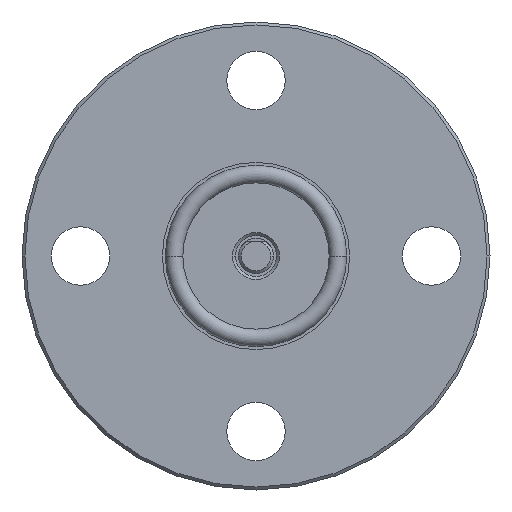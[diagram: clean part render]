
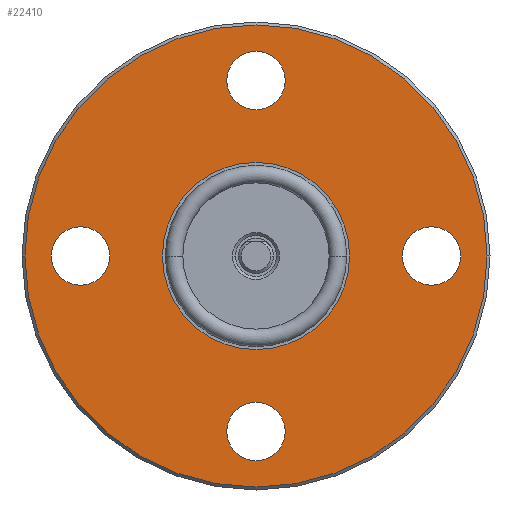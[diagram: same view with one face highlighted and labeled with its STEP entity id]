
A CAD part, left-side view. The second image highlights one B-rep face of the part: STEP entity #22410.
In plain terms, the highlighted planar face has unit normal (-1, 0, 0).
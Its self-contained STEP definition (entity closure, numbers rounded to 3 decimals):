
#40 = VERTEX_POINT ( 'NONE', #27620 ) ;
#51 = EDGE_CURVE ( 'NONE', #62, #40, #27654, .T. ) ;
#55 = EDGE_CURVE ( 'NONE', #68, #60, #27649, .T. ) ;
#56 = EDGE_CURVE ( 'NONE', #22091, #22093, #27644, .T. ) ;
#60 = VERTEX_POINT ( 'NONE', #27638 ) ;
#62 = VERTEX_POINT ( 'NONE', #27696 ) ;
#68 = VERTEX_POINT ( 'NONE', #27693 ) ;
#21699 = EDGE_CURVE ( 'NONE', #21701, #21854, #27780, .T. ) ;
#21701 = VERTEX_POINT ( 'NONE', #27775 ) ;
#21854 = VERTEX_POINT ( 'NONE', #27968 ) ;
#22068 = EDGE_CURVE ( 'NONE', #22073, #22081, #28342, .T. ) ;
#22073 = VERTEX_POINT ( 'NONE', #28333 ) ;
#22074 = EDGE_CURVE ( 'NONE', #22085, #22076, #28332, .T. ) ;
#22076 = VERTEX_POINT ( 'NONE', #28327 ) ;
#22081 = VERTEX_POINT ( 'NONE', #28326 ) ;
#22085 = VERTEX_POINT ( 'NONE', #28324 ) ;
#22091 = VERTEX_POINT ( 'NONE', #28379 ) ;
#22093 = VERTEX_POINT ( 'NONE', #28378 ) ;
#22277 = EDGE_LOOP ( 'NONE', ( #22278, #22281 ) ) ;
#22278 = ORIENTED_EDGE ( 'NONE', *, *, #22279, .F. ) ;
#22279 = EDGE_CURVE ( 'NONE', #60, #68, #29019, .T. ) ;
#22281 = ORIENTED_EDGE ( 'NONE', *, *, #55, .F. ) ;
#22284 = EDGE_LOOP ( 'NONE', ( #22285, #22288 ) ) ;
#22285 = ORIENTED_EDGE ( 'NONE', *, *, #22286, .F. ) ;
#22286 = EDGE_CURVE ( 'NONE', #40, #62, #29058, .T. ) ;
#22288 = ORIENTED_EDGE ( 'NONE', *, *, #51, .F. ) ;
#22289 = EDGE_LOOP ( 'NONE', ( #22381, #22386 ) ) ;
#22381 = ORIENTED_EDGE ( 'NONE', *, *, #22383, .F. ) ;
#22383 = EDGE_CURVE ( 'NONE', #22093, #22091, #29240, .T. ) ;
#22386 = ORIENTED_EDGE ( 'NONE', *, *, #56, .F. ) ;
#22388 = EDGE_LOOP ( 'NONE', ( #22390, #22394 ) ) ;
#22390 = ORIENTED_EDGE ( 'NONE', *, *, #22392, .F. ) ;
#22392 = EDGE_CURVE ( 'NONE', #22081, #22073, #29235, .T. ) ;
#22394 = ORIENTED_EDGE ( 'NONE', *, *, #22068, .F. ) ;
#22397 = EDGE_LOOP ( 'NONE', ( #22399, #22404 ) ) ;
#22399 = ORIENTED_EDGE ( 'NONE', *, *, #22401, .F. ) ;
#22401 = EDGE_CURVE ( 'NONE', #22076, #22085, #29230, .T. ) ;
#22404 = ORIENTED_EDGE ( 'NONE', *, *, #22074, .F. ) ;
#22410 = ADVANCED_FACE ( 'NONE', ( #29218, #29217, #29276, #29275, #29274, #29273 ), #29223, .T. ) ;
#22413 = EDGE_LOOP ( 'NONE', ( #22415, #22419 ) ) ;
#22415 = ORIENTED_EDGE ( 'NONE', *, *, #22417, .T. ) ;
#22417 = EDGE_CURVE ( 'NONE', #21854, #21701, #29268, .T. ) ;
#22419 = ORIENTED_EDGE ( 'NONE', *, *, #21699, .T. ) ;
#27620 = CARTESIAN_POINT ( 'NONE',  ( 20., -5., 30. ) ) ;
#27638 = CARTESIAN_POINT ( 'NONE',  ( 20., -16., 0. ) ) ;
#27640 = DIRECTION ( 'NONE',  ( 0., 1., 0. ) ) ;
#27641 = DIRECTION ( 'NONE',  ( -1., 0., 0. ) ) ;
#27642 = CARTESIAN_POINT ( 'NONE',  ( 20., -30., 0. ) ) ;
#27643 = AXIS2_PLACEMENT_3D ( 'NONE', #27642, #27641, #27640 ) ;
#27644 = CIRCLE ( 'NONE', #27643, 5. ) ;
#27645 = DIRECTION ( 'NONE',  ( 0., -1., 0. ) ) ;
#27646 = DIRECTION ( 'NONE',  ( -1., 0., 0. ) ) ;
#27647 = CARTESIAN_POINT ( 'NONE',  ( 20., 0., 0. ) ) ;
#27648 = AXIS2_PLACEMENT_3D ( 'NONE', #27647, #27646, #27645 ) ;
#27649 = CIRCLE ( 'NONE', #27648, 16. ) ;
#27650 = DIRECTION ( 'NONE',  ( 0., 0., -1. ) ) ;
#27651 = DIRECTION ( 'NONE',  ( -1., 0., 0. ) ) ;
#27652 = CARTESIAN_POINT ( 'NONE',  ( 20., 0., 30. ) ) ;
#27653 = AXIS2_PLACEMENT_3D ( 'NONE', #27652, #27651, #27650 ) ;
#27654 = CIRCLE ( 'NONE', #27653, 5. ) ;
#27693 = CARTESIAN_POINT ( 'NONE',  ( 20., 16., 0. ) ) ;
#27696 = CARTESIAN_POINT ( 'NONE',  ( 20., 5., 30. ) ) ;
#27775 = CARTESIAN_POINT ( 'NONE',  ( 20., -39.5, 0. ) ) ;
#27776 = DIRECTION ( 'NONE',  ( 0., -1., 0. ) ) ;
#27777 = DIRECTION ( 'NONE',  ( -1., 0., 0. ) ) ;
#27778 = CARTESIAN_POINT ( 'NONE',  ( 20., 0., 0. ) ) ;
#27779 = AXIS2_PLACEMENT_3D ( 'NONE', #27778, #27777, #27776 ) ;
#27780 = CIRCLE ( 'NONE', #27779, 39.5 ) ;
#27968 = CARTESIAN_POINT ( 'NONE',  ( 20., 39.5, 0. ) ) ;
#28324 = CARTESIAN_POINT ( 'NONE',  ( 20., 35., 0. ) ) ;
#28326 = CARTESIAN_POINT ( 'NONE',  ( 20., -5., -30. ) ) ;
#28327 = CARTESIAN_POINT ( 'NONE',  ( 20., 25., 0. ) ) ;
#28328 = DIRECTION ( 'NONE',  ( 0., -1., 0. ) ) ;
#28329 = DIRECTION ( 'NONE',  ( -1., 0., 0. ) ) ;
#28330 = CARTESIAN_POINT ( 'NONE',  ( 20., 30., 0. ) ) ;
#28331 = AXIS2_PLACEMENT_3D ( 'NONE', #28330, #28329, #28328 ) ;
#28332 = CIRCLE ( 'NONE', #28331, 5. ) ;
#28333 = CARTESIAN_POINT ( 'NONE',  ( 20., 5., -30. ) ) ;
#28338 = DIRECTION ( 'NONE',  ( 0., 0., 1. ) ) ;
#28339 = DIRECTION ( 'NONE',  ( -1., 0., 0. ) ) ;
#28340 = CARTESIAN_POINT ( 'NONE',  ( 20., 0., -30. ) ) ;
#28341 = AXIS2_PLACEMENT_3D ( 'NONE', #28340, #28339, #28338 ) ;
#28342 = CIRCLE ( 'NONE', #28341, 5. ) ;
#28378 = CARTESIAN_POINT ( 'NONE',  ( 20., -35., 0. ) ) ;
#28379 = CARTESIAN_POINT ( 'NONE',  ( 20., -25., 0. ) ) ;
#29019 = CIRCLE ( 'NONE', #29063, 16. ) ;
#29055 = DIRECTION ( 'NONE',  ( 0., 0., -1. ) ) ;
#29056 = DIRECTION ( 'NONE',  ( -1., 0., 0. ) ) ;
#29057 = AXIS2_PLACEMENT_3D ( 'NONE', #29064, #29056, #29055 ) ;
#29058 = CIRCLE ( 'NONE', #29057, 5. ) ;
#29060 = DIRECTION ( 'NONE',  ( 0., -1., 0. ) ) ;
#29061 = DIRECTION ( 'NONE',  ( -1., 0., 0. ) ) ;
#29062 = CARTESIAN_POINT ( 'NONE',  ( 20., 0., 0. ) ) ;
#29063 = AXIS2_PLACEMENT_3D ( 'NONE', #29062, #29061, #29060 ) ;
#29064 = CARTESIAN_POINT ( 'NONE',  ( 20., 0., 30. ) ) ;
#29217 = FACE_BOUND ( 'NONE', #22277, .T. ) ;
#29218 = FACE_OUTER_BOUND ( 'NONE', #22413, .T. ) ;
#29223 = PLANE ( 'NONE',  #29272 ) ;
#29226 = DIRECTION ( 'NONE',  ( 0., -1., 0. ) ) ;
#29227 = DIRECTION ( 'NONE',  ( -1., 0., 0. ) ) ;
#29228 = CARTESIAN_POINT ( 'NONE',  ( 20., 30., 0. ) ) ;
#29229 = AXIS2_PLACEMENT_3D ( 'NONE', #29228, #29227, #29226 ) ;
#29230 = CIRCLE ( 'NONE', #29229, 5. ) ;
#29231 = DIRECTION ( 'NONE',  ( 0., 0., 1. ) ) ;
#29232 = DIRECTION ( 'NONE',  ( -1., 0., 0. ) ) ;
#29233 = CARTESIAN_POINT ( 'NONE',  ( 20., 0., -30. ) ) ;
#29234 = AXIS2_PLACEMENT_3D ( 'NONE', #29233, #29232, #29231 ) ;
#29235 = CIRCLE ( 'NONE', #29234, 5. ) ;
#29236 = DIRECTION ( 'NONE',  ( 0., 1., 0. ) ) ;
#29237 = DIRECTION ( 'NONE',  ( -1., 0., 0. ) ) ;
#29238 = CARTESIAN_POINT ( 'NONE',  ( 20., -30., 0. ) ) ;
#29239 = AXIS2_PLACEMENT_3D ( 'NONE', #29238, #29237, #29236 ) ;
#29240 = CIRCLE ( 'NONE', #29239, 5. ) ;
#29264 = DIRECTION ( 'NONE',  ( 0., -1., 0. ) ) ;
#29265 = DIRECTION ( 'NONE',  ( -1., 0., 0. ) ) ;
#29266 = CARTESIAN_POINT ( 'NONE',  ( 20., 0., 0. ) ) ;
#29267 = AXIS2_PLACEMENT_3D ( 'NONE', #29266, #29265, #29264 ) ;
#29268 = CIRCLE ( 'NONE', #29267, 39.5 ) ;
#29269 = DIRECTION ( 'NONE',  ( 0., -1., 0. ) ) ;
#29270 = DIRECTION ( 'NONE',  ( -1., 0., 0. ) ) ;
#29271 = CARTESIAN_POINT ( 'NONE',  ( 20., 3., 0. ) ) ;
#29272 = AXIS2_PLACEMENT_3D ( 'NONE', #29271, #29270, #29269 ) ;
#29273 = FACE_BOUND ( 'NONE', #22397, .T. ) ;
#29274 = FACE_BOUND ( 'NONE', #22388, .T. ) ;
#29275 = FACE_BOUND ( 'NONE', #22289, .T. ) ;
#29276 = FACE_BOUND ( 'NONE', #22284, .T. ) ;
